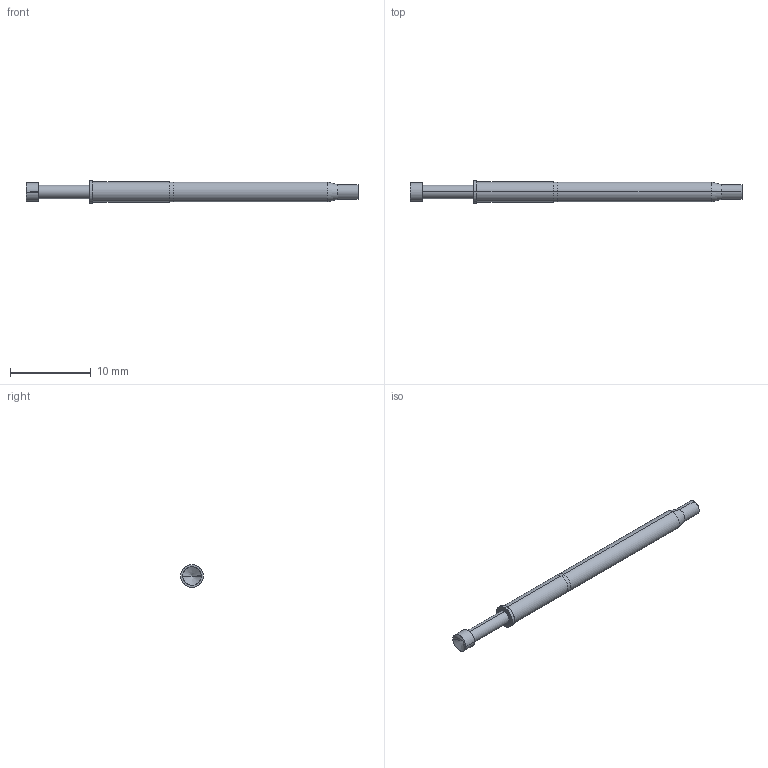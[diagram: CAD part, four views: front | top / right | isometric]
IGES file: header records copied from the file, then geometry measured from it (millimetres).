
Start section: SolidWorks IGES file using analytic representation for surfaces
Global section: file name: C:\Users\otazawa\Desktop\プローブカタログデータ確認分2014.07\200Series\IP200-2V_IS200-A.IGS,15HSolidWorks; native system: 2011; preprocessor: SolidWorks 2011; author: otazawa; date: 140825.111639; units: millimetre
Bounding box: 41.07 x 2.79 x 2.79 mm (x, y, z)
Surface area: 640.5 mm2 (no closed solid volume)
Topology: 0 solids, 0 shells, 34 faces, 432 edges, 430 vertices
Faces by surface type: revolution 24, bspline 10
